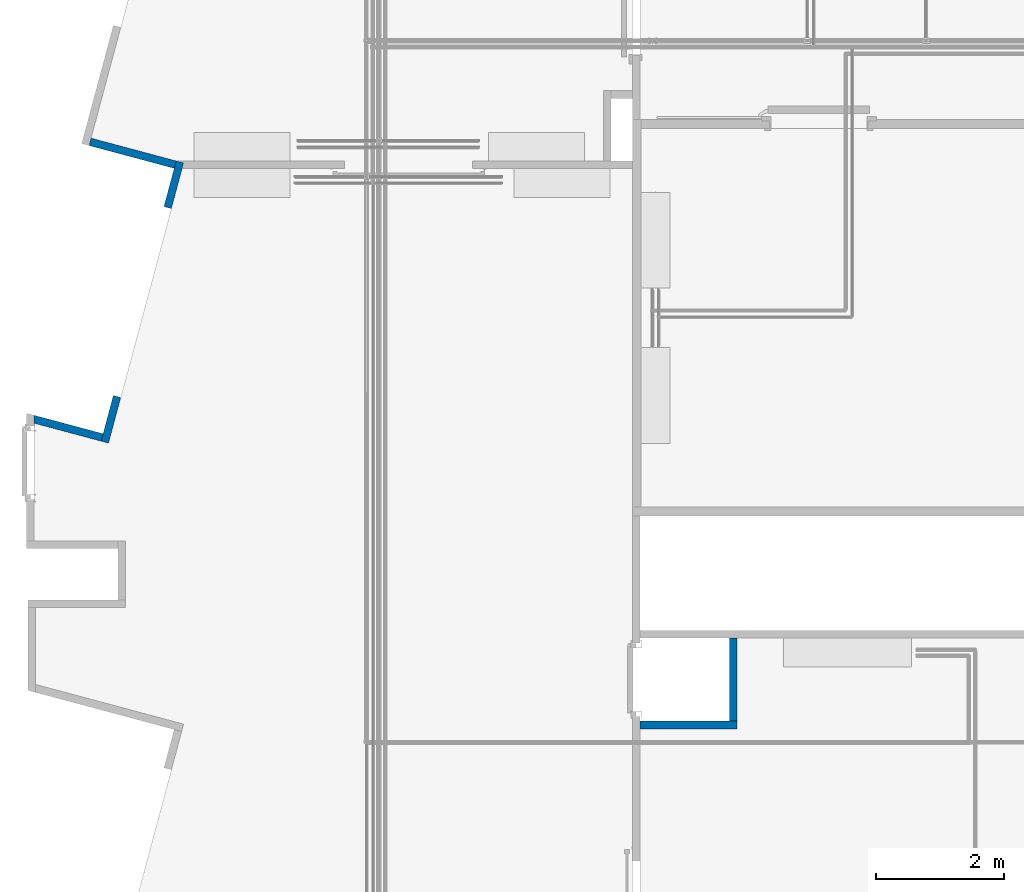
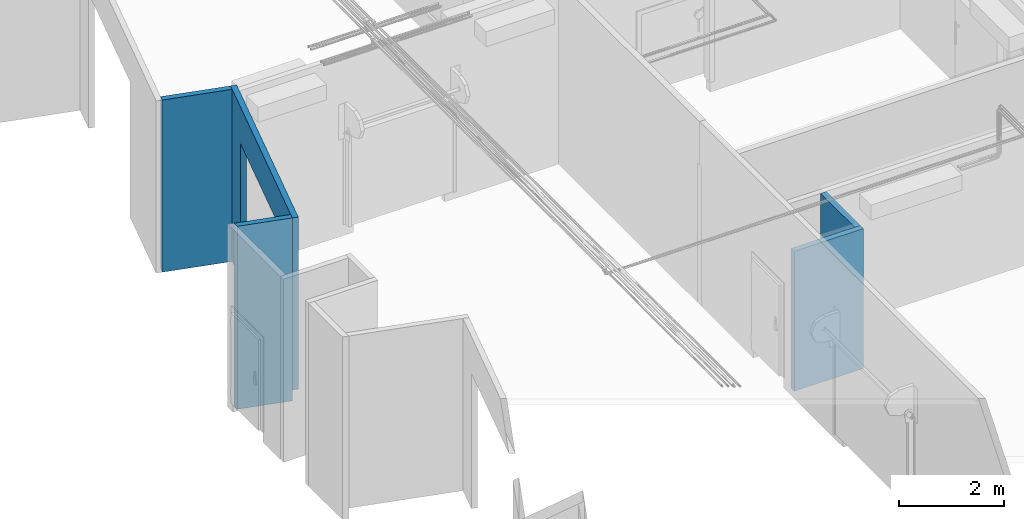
# One storey, part 6 of 652: 5 walls, 1 opening.
"""IFC2X3 building model written with IfcOpenShell, lengths in millimetres."""

from ifc_helpers import new_model, entity, si_unit, converted_unit, direction, frame, frame_2d, origin, place, context, subcontext, project, spatial, polyline, rectangle, outline, extrude, material, layer, layer_set, layer_usage, type_object, element, save


model = new_model("IFC2X3")

# Units and contexts
model_context = context("Model", 3, precision=0.01, world=frame((0.0, 0.0, 308426.39999999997)), true_north=direction((6.123233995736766e-17, 1.0)))
plan_context = context("Plan", 3, precision=0.01, world=frame((0.0, 0.0, 308426.39999999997)), true_north=direction((6.123233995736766e-17, 1.0)))
body_context = subcontext(model_context, "Body", "Model", "MODEL_VIEW")
ifc_project = project(units=[si_unit("LENGTHUNIT", "METRE", prefix="MILLI"), si_unit("AREAUNIT", "SQUARE_METRE"), si_unit("VOLUMEUNIT", "CUBIC_METRE"), converted_unit("PLANEANGLEUNIT", "DEGREE", entity("IfcPlaneAngleMeasure", 0.017453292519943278), si_unit("PLANEANGLEUNIT", "RADIAN"), dimensions=[0, 0, 0, 0, 0, 0, 0])], contexts=[model_context, plan_context])

# Site, building, storey
site_placement = place(None, origin())
site = spatial("IfcSite", under=ifc_project, at=site_placement, Name="Default", CompositionType="ELEMENT")
building_placement = place(site_placement, origin())
building = spatial("IfcBuilding", under=site, at=building_placement, CompositionType="ELEMENT")
storey_placement = place(building_placement, frame((0.0, 0.0, 1730.6999999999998)))
storey = spatial("IfcBuildingStorey", under=building, at=storey_placement, Name="EG_Produktion_FFB", CompositionType="ELEMENT", Elevation=1730.6999999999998)

# Walls
ifc_material = material(Name="GPG_Paneelwand")
ifc_layer = layer(ifc_material, 120.0)
ifc_layer_set = layer_set([ifc_layer], Name="Basiswand:Kühlzellen Paneelwand 120")
ifc_layer_usage_1 = layer_usage(ifc_layer_set, "AXIS2", "NEGATIVE", 60.0)
wall_type = type_object("IfcWallType", Name="Basiswand:Kühlzellen Paneelwand 120", PredefinedType="STANDARD", material=ifc_layer_set)
wall_1_placement = place(storey_placement, frame((19270.0, 49240.0, -250.0)))
element("IfcWallStandardCase", 1, at=wall_1_placement, inside=storey, type_object=wall_type, material=ifc_layer_usage_1, Name="Basiswand:Kühlzellen Paneelwand 120", ObjectType="Basiswand:Kühlzellen Paneelwand 120", context=body_context, shape_type="SweptSolid", body=[
    extrude(rectangle(XDim=1520.0000000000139, YDim=120.00000000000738, at=frame_2d((760.0000000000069, 0.0), x_axis=(-1.0, 0.0))), origin(), (0.0, 0.0, 1.0), 3249.9999999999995),
])
ifc_layer_usage_2 = layer_usage(ifc_layer_set, "AXIS2", "POSITIVE", -60.0)
wall_2_placement = place(storey_placement, frame((20730.0, 50600.0, -250.0), z_axis=(0.0, 0.0, 1.0), x_axis=(0.0, -1.0, 0.0)))
element("IfcWallStandardCase", 2, at=wall_2_placement, inside=storey, type_object=wall_type, material=ifc_layer_usage_2, Name="Basiswand:Kühlzellen Paneelwand 120", ObjectType="Basiswand:Kühlzellen Paneelwand 120", context=body_context, shape_type="SweptSolid", body=[
    extrude(rectangle(XDim=1299.999999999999, YDim=119.9999999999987, at=frame_2d((649.9999999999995, 1.0054179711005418e-12), x_axis=(-1.0, 0.0))), origin(), (0.0, 0.0, 1.0), 3249.9999999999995),
])

# Wall, opening
ifc_layer_usage_3 = layer_usage(ifc_layer_set, "AXIS2", "POSITIVE", -60.0)
wall_3_placement = place(storey_placement, frame((12070.170273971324, 58053.16195161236, 0.0), z_axis=(0.0, 0.0, 1.0), x_axis=(-0.2588190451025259, -0.9659258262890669, 0.0)))
wall_3 = element("IfcWallStandardCase", 3, at=wall_3_placement, inside=storey, type_object=wall_type, material=ifc_layer_usage_3, Name="Basiswand:Kühlzellen Paneelwand 120", ObjectType="Basiswand:Kühlzellen Paneelwand 120", context=body_context, shape_type="SweptSolid", body=[
    extrude(rectangle(XDim=4540.000000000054, YDim=119.9999999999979, at=frame_2d((2270.000000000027, -4.085620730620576e-13), x_axis=(-1.0, 0.0))), origin(), (0.0, 0.0, 1.0), 3999.999999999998),
])
opening_placement = place(wall_3_placement, origin())
element("IfcOpeningElement", 4, at=opening_placement, cuts=wall_3, Name="Basiswand:Kühlzellen Paneelwand 120", ObjectType="Opening", context=body_context, shape_type="SweptSolid", body=[
    extrude(rectangle(XDim=3649.9999999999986, YDim=3060.000000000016, at=frame_2d((1.1368683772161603e-13, 8.640199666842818e-12), x_axis=(1.0, 0.0))), frame((2270.0, -60.0, 1325.0), z_axis=(0.0, 1.0, 0.0), x_axis=(0.0, 0.0, -1.0)), (0.0, 0.0, 1.0), 119.99999999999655),
])

# Walls
ifc_layer_usage_4 = layer_usage(ifc_layer_set, "AXIS2", "POSITIVE", -60.0)
wall_4_placement = place(storey_placement, frame((10664.473615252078, 58367.7006652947, 0.0), z_axis=(0.0, 0.0, 1.0), x_axis=(0.9659258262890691, -0.25881904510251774, 0.0)))
element("IfcWallStandardCase", 5, at=wall_4_placement, inside=storey, type_object=wall_type, material=ifc_layer_usage_4, Name="Basiswand:Kühlzellen Paneelwand 120", ObjectType="Basiswand:Kühlzellen Paneelwand 120", context=body_context, shape_type="SweptSolid", body=[
    extrude(rectangle(XDim=1379.207316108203, YDim=120.0000000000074, at=frame_2d((689.6036580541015, -7.993605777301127e-13), x_axis=(-1.0, 0.0))), origin(), (0.0, 0.0, 1.0), 4000.0000000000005),
])
ifc_layer_usage_5 = layer_usage(ifc_layer_set, "AXIS2", "NEGATIVE", 60.0)
wall_5_placement = place(storey_placement, frame((10852.70540233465, 53741.343392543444, -250.0), z_axis=(0.0, 0.0, 1.0), x_axis=(-0.9659258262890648, 0.25881904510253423, 0.0)))
element("IfcWallStandardCase", 6, at=wall_5_placement, inside=storey, type_object=wall_type, material=ifc_layer_usage_5, Name="Basiswand:Kühlzellen Paneelwand 120", ObjectType="Basiswand:Kühlzellen Paneelwand 120", context=body_context, shape_type="SweptSolid", body=[
    extrude(outline(polyline([(1116.2705413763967, -60.0), (1084.1166382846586, 60.0), (0.0, 60.0), (0.0, -60.0), (1116.2705413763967, -60.0)])), origin(), (0.0, 0.0, 1.0), 4250.0),
])

save(model, "model.ifc")
